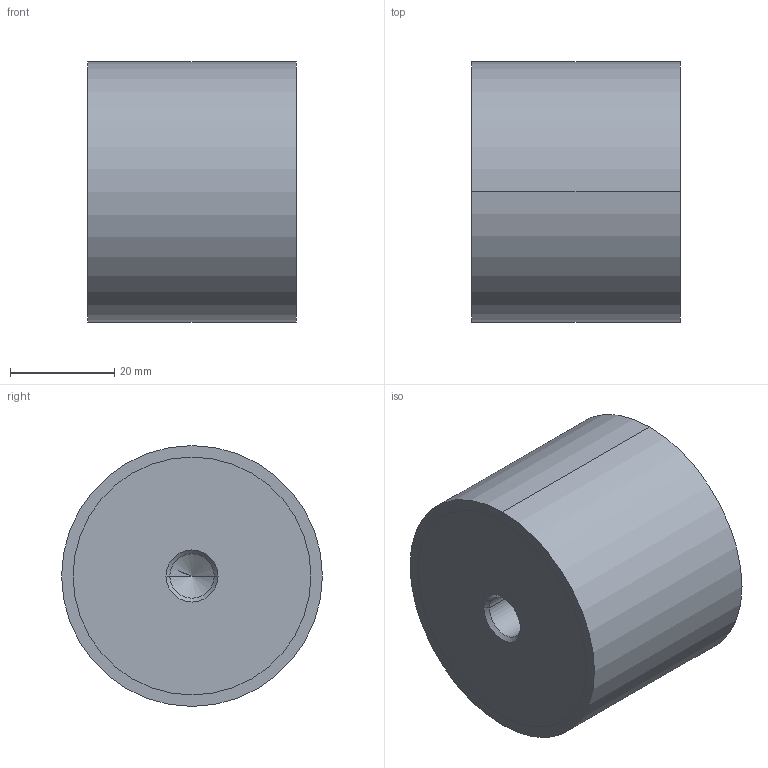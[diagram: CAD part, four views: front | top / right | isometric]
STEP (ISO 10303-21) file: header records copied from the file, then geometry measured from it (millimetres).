
FILE_DESCRIPTION (( 'STEP AP214' ), '1' );
FILE_NAME ('451-50-40-M10-EE-55.step', '2020-03-05T09:13:38', ( '' ), ( '' ), 'SwSTEP 2.0', 'SolidWorks 2019', '' );
FILE_SCHEMA (( 'AUTOMOTIVE_DESIGN' ));
Length unit declared in the file: millimetre
Products named in the file (1): 451-50-40-M10-EE-55
Bounding box: 40 x 50 x 50 mm (x, y, z)
Volume: 77261.3 mm3; surface area: 10743.8 mm2
Topology: 1 solids, 1 shells, 22 faces, 46 edges, 26 vertices
Faces by surface type: cylinder 10, cone 8, plane 4
Entity records: 684 total; most frequent: DIRECTION 112, CARTESIAN_POINT 91, ORIENTED_EDGE 84, AXIS2_PLACEMENT_3D 47, EDGE_CURVE 42, VERTEX_POINT 26, EDGE_LOOP 26, CIRCLE 24
